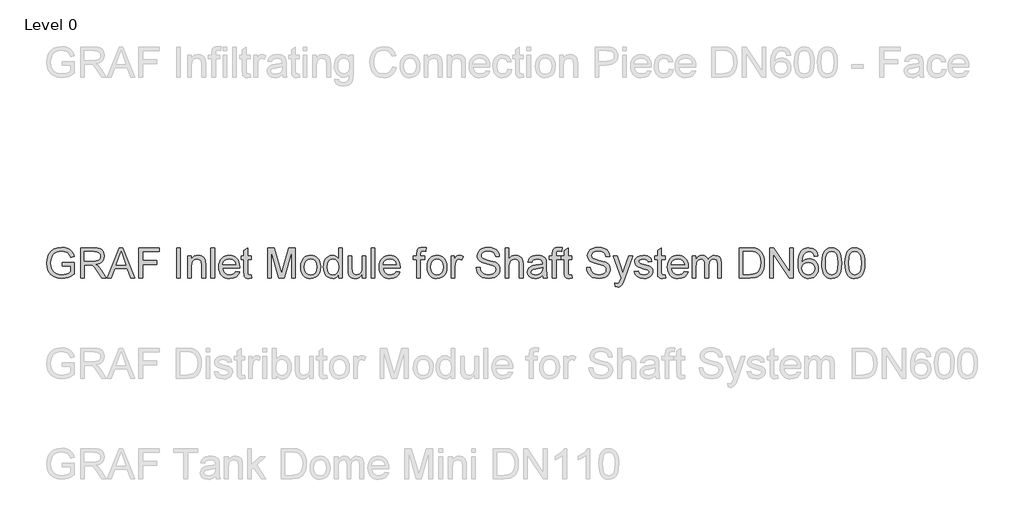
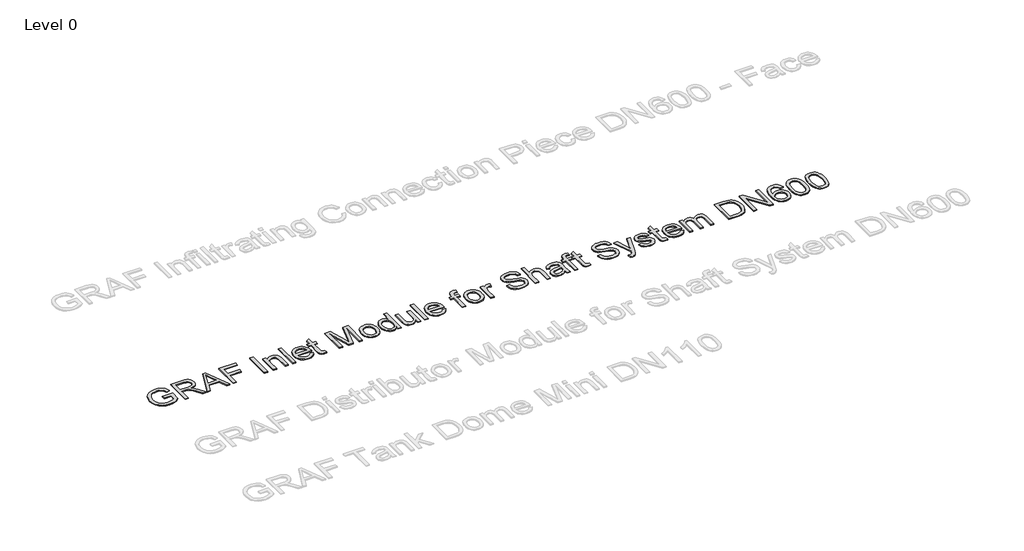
# One storey, part 15 of 25: 1 proxy.
"""IFC4 building model written with IfcOpenShell, lengths in millimetres."""

import ifcopenshell
import ifcopenshell.guid

model = None  # the IFC model being written
_history = None  # IfcOwnerHistory: only IFC2X3 demands one
_inside = {}  # id of a spatial element -> (the spatial element, [elements in it])
_under = {}  # id of a project, library or spatial element -> (it, [spatial elements below it])
_declared = {}  # id of a project -> (the project, [libraries it declares])
_typed = {}  # id of a type object -> (the type object, [elements of that type])
_made_of = {}  # id of a material, layer set ... -> (it, [elements and type objects made of it])


def new_model(schema):
    """Start an empty IFC model of exactly this schema.

    Asked for "IFC4X3", IfcOpenShell would pick the latest addendum, in which some entities
    have other attributes; the version numbers below select the first issue.
    IFC2X3 requires an IfcOwnerHistory on every rooted entity: one is made here for all.
    """
    global model, _history
    if schema == "IFC4X3":
        model = ifcopenshell.file(schema_version=(4, 3, 0, 0))
    else:
        model = ifcopenshell.file(schema=schema)
    _inside.clear()
    _under.clear()
    _declared.clear()
    _typed.clear()
    _made_of.clear()
    _history = None
    if model.schema == "IFC2X3":
        org = make("IfcOrganization", Name="unknown")
        user = make(
            "IfcPersonAndOrganization",
            ThePerson=make("IfcPerson", FamilyName="unknown"),
            TheOrganization=org,
        )
        app = make(
            "IfcApplication",
            ApplicationDeveloper=org,
            Version="unknown",
            ApplicationFullName="unknown",
            ApplicationIdentifier="unknown",
        )
        _history = make(
            "IfcOwnerHistory",
            OwningUser=user,
            OwningApplication=app,
            ChangeAction="ADDED",
            CreationDate=0,
        )
    return model


def make(cls, **values):
    """One entity of the class cls with the attributes given. An attribute that is None is left unset."""
    return model.create_entity(
        cls, **{name: value for name, value in values.items() if value is not None}
    )


def rooted(cls, **values):
    """An entity with a GlobalId (a new one), such as an element, a storey or a relation."""
    return make(cls, GlobalId=ifcopenshell.guid.new(), OwnerHistory=_history, **values)


def si_unit(unit_type, name, prefix=None):
    """IfcSIUnit, for example si_unit("LENGTHUNIT", "METRE", prefix="MILLI")."""
    return make("IfcSIUnit", UnitType=unit_type, Prefix=prefix, Name=name)


def assignment(units):
    """IfcUnitAssignment: the units of a project."""
    return None if units is None else make("IfcUnitAssignment", Units=units)


def point(xyz):
    """IfcCartesianPoint."""
    return None if xyz is None else make("IfcCartesianPoint", Coordinates=xyz)


def direction(xyz):
    """IfcDirection."""
    return None if xyz is None else make("IfcDirection", DirectionRatios=xyz)


def frame(location, z_axis=None, x_axis=None):
    """IfcAxis2Placement3D, a coordinate frame: its origin and axes. An axis left out is left unset."""
    return make(
        "IfcAxis2Placement3D",
        Location=point(location),
        Axis=direction(z_axis),
        RefDirection=direction(x_axis),
    )


def origin():
    """The frame at (0, 0, 0) with its axes left unset."""
    return frame((0.0, 0.0, 0.0))


def origin_with_axes():
    """The frame at (0, 0, 0) with the z axis (0, 0, 1) and the x axis (1, 0, 0) written out."""
    return frame((0.0, 0.0, 0.0), z_axis=(0.0, 0.0, 1.0), x_axis=(1.0, 0.0, 0.0))


def place(relative_to, where):
    """IfcLocalPlacement: puts the frame where relative to a parent placement (None: the world)."""
    return make(
        "IfcLocalPlacement", PlacementRelTo=relative_to, RelativePlacement=where
    )


def context(
    kind, dimensions, precision=None, world=None, true_north=None, identifier=None
):
    """IfcGeometricRepresentationContext, for example the 3D "Model" context."""
    return make(
        "IfcGeometricRepresentationContext",
        ContextIdentifier=identifier,
        ContextType=kind,
        CoordinateSpaceDimension=dimensions,
        Precision=precision,
        WorldCoordinateSystem=world,
        TrueNorth=true_north,
    )


def project(units=None, contexts=None):
    """IfcProject with its units and contexts."""
    return rooted(
        "IfcProject",
        Name="project",
        RepresentationContexts=contexts,
        UnitsInContext=assignment(units),
    )


def spatial(cls, under=None, at=None, **own):
    """A site, building, storey or space (cls), placed at a placement, below another one or the project."""
    s = rooted(cls, ObjectPlacement=at, **own)
    if under is not None:
        _under.setdefault(under.id(), (under, []))[1].append(s)
    return s


def polyline(points):
    """IfcPolyline through the points."""
    return make("IfcPolyline", Points=[point(p) for p in points])


def outline(outer, holes=None, kind="AREA"):
    """IfcArbitraryClosedProfileDef: a profile drawn as a closed curve; with holes, ...WithVoids."""
    if holes is None:
        return make("IfcArbitraryClosedProfileDef", ProfileType=kind, OuterCurve=outer)
    return make(
        "IfcArbitraryProfileDefWithVoids",
        ProfileType=kind,
        OuterCurve=outer,
        InnerCurves=holes,
    )


def extrude(swept, where, along, depth):
    """IfcExtrudedAreaSolid: the profile swept, set in the frame where, extruded along a direction by depth."""
    return make(
        "IfcExtrudedAreaSolid",
        SweptArea=swept,
        Position=where,
        ExtrudedDirection=direction(along),
        Depth=depth,
    )


def shape(context_of_items, identifier, shape_type, items):
    """IfcShapeRepresentation: the items that make up one representation, for example the "Body"."""
    return make(
        "IfcShapeRepresentation",
        ContextOfItems=context_of_items,
        RepresentationIdentifier=identifier,
        RepresentationType=shape_type,
        Items=items,
    )


def made_of(thing, what):
    """Note that an element or type object is made of a material, layer set ...; save() writes the relation."""
    if what is not None:
        _made_of.setdefault(what.id(), (what, []))[1].append(thing)
    return thing


def element(
    cls,
    number,
    at=None,
    inside=None,
    cuts=None,
    type_object=None,
    material=None,
    context=None,
    identifier="Body",
    shape_type=None,
    held_by="IfcProductDefinitionShape",
    body=None,
    shapes=None,
    **own,
):
    """One element of the class cls, such as IfcWall. Its Tag is "e" and its number.

    at: its placement. inside: the storey or other place that contains it. cuts: it is an
    opening in that element (IfcRelVoidsElement). A single representation is given by context,
    identifier, shape_type and body (its items); several are given by shapes. held_by: the class
    of the entity that holds the representations. save() writes the other relations.
    """
    e = rooted(cls, Tag="e%d" % number, ObjectPlacement=at, **own)
    if body is not None:
        shapes = [shape(context, identifier, shape_type, body)]
    if shapes is not None:
        e.Representation = make(held_by, Representations=shapes)
    if inside is not None:
        _inside.setdefault(inside.id(), (inside, []))[1].append(e)
    if cuts is not None:
        rooted(
            "IfcRelVoidsElement", RelatingBuildingElement=cuts, RelatedOpeningElement=e
        )
    if type_object is not None:
        _typed.setdefault(type_object.id(), (type_object, []))[1].append(e)
    return made_of(e, material)


def aggregate(whole, parts):
    """IfcRelAggregates: a whole, such as a stair, and the parts it consists of."""
    return rooted("IfcRelAggregates", RelatingObject=whole, RelatedObjects=parts)


def save(model, path):
    """Write the relations noted so far, then the file.

    IfcRelAggregates (storeys below a building ...), IfcRelContainedInSpatialStructure (elements
    in a storey), IfcRelDefinesByType, IfcRelAssociatesMaterial and IfcRelDeclares: one each for
    every whole, place, type object, material and project.
    """
    for whole, parts in _under.values():
        aggregate(whole, parts)
    for where, things in _inside.values():
        rooted(
            "IfcRelContainedInSpatialStructure",
            RelatedElements=things,
            RelatingStructure=where,
        )
    for kind, things in _typed.values():
        rooted("IfcRelDefinesByType", RelatedObjects=things, RelatingType=kind)
    for what, things in _made_of.values():
        rooted("IfcRelAssociatesMaterial", RelatedObjects=things, RelatingMaterial=what)
    for by, libraries in _declared.values():
        rooted("IfcRelDeclares", RelatingContext=by, RelatedDefinitions=libraries)
    model.write(path)


model = new_model("IFC4")

# Units and contexts
model_context = context("Model", 3, world=origin())
ifc_project = project(units=[si_unit("LENGTHUNIT", "METRE", prefix="MILLI")], contexts=[model_context])

# Site, building, storey
site = spatial("IfcSite", under=ifc_project)
building = spatial("IfcBuilding", under=site)
storey = spatial("IfcBuildingStorey", under=building, Name="Level 0", Elevation=0.0)

# Proxy
placement = place(None, origin())
element("IfcBuildingElementProxy", 1, Name="300mm Arial", ObjectType="300mm Arial", at=placement, inside=storey, context=model_context, shape_type="SweptSolid", body=[
    extrude(outline(polyline([(-15240.9940387, 916.7454403), (-15240.9940387, 954.4165566), (-15118.5629107, 954.4165566), (-15118.5629107, 841.7710897), (-15148.3153671, 821.0777274), (-15179.0059225, 806.2336889), (-15210.5610007, 797.2941564), (-15242.9070251, 794.3143123), (-15285.1674693, 799.050793), (-15323.3628175, 813.260235), (-15355.0926395, 836.4459978), (-15377.9565055, 868.1114405), (-15391.7796715, 906.0952565), (-15396.3873935, 948.2361391), (-15391.7980656, 990.6805243), (-15378.0300819, 1030.1634594), (-15355.6536596, 1063.282036), (-15325.2390156, 1086.6333457), (-15288.1932987, 1100.4841028), (-15245.9236575, 1105.1010218), (-15214.8928112, 1102.4246803), (-15186.9889618, 1094.3956557), (-15163.4904994, 1081.5933623), (-15145.6758138, 1064.5972141), (-15132.4964413, 1042.5886738), (-15122.9039183, 1014.7492038), (-15157.6319786, 1004.9635427), (-15165.3850917, 1024.8199734), (-15174.8120678, 1039.8019677), (-15187.2832674, 1051.0959449), (-15204.169051, 1059.8883246), (-15224.3013932, 1065.5445103), (-15246.5122687, 1067.4299055), (-15272.5123287, 1065.3973575), (-15294.7415982, 1059.2997134), (-15313.1173039, 1049.9003284), (-15327.5566722, 1037.9625577), (-15346.9440533, 1008.9366683), (-15355.7732212, 980.49939), (-15358.7162772, 949.7812434), (-15355.175413, 913.7563991), (-15344.5528204, 884.1143073), (-15327.1703961, 861.0665003), (-15303.3500369, 844.8245102), (-15275.4737787, 835.195199), (-15245.9236575, 831.9854286), (-15219.831627, 834.4042527), (-15194.3833899, 841.6607251), (-15172.2828791, 851.6579183), (-15156.234027, 862.298905), (-15156.234027, 916.7454403), (-15240.9940387, 916.7454403)])), origin_with_axes(), (0.0, 0.0, 1.0), 10.0),
    extrude(outline(polyline([(-15057.3473467, 799.0232018), (-15057.3473467, 1100.3921323), (-14927.4850024, 1100.3921323), (-14892.5821982, 1098.3595842), (-14867.1891434, 1092.2619402), (-14848.6294968, 1081.0047511), (-14834.2269167, 1063.4935682), (-14824.9838815, 1041.7793334), (-14821.9028698, 1017.912989), (-14827.0072325, 988.2249119), (-14842.3203206, 963.6136065), (-14853.9200997, 953.5842236), (-14868.3019865, 945.5689946), (-14905.4120827, 935.5809984), (-14884.0013506, 919.467767), (-14853.467145, 880.6930048), (-14803.2144645, 799.0232018), (-14846.9924219, 799.0232018), (-14886.2086426, 861.4895646), (-14914.5355562, 902.8395009), (-14934.4379722, 922.3740348), (-14952.3538253, 929.5477337), (-14974.2060158, 930.8721089), (-15019.6762304, 930.8721089), (-15019.6762304, 799.0232018), (-15057.3473467, 799.0232018)]), holes=[polyline([(-15019.6762304, 968.5432252), (-14935.3576771, 968.5432252), (-14911.1418448, 969.8767974), (-14892.3522719, 973.8775141), (-14878.2072092, 980.8120897), (-14867.9249074, 990.9472387), (-14861.6617165, 1003.2069062), (-14859.5739861, 1016.5150374), (-14863.5563087, 1034.890743), (-14875.5032765, 1049.6979933), (-14896.058683, 1059.4652603), (-14925.8663217, 1062.721016), (-15019.6762304, 1062.721016), (-15019.6762304, 968.5432252)])]), origin_with_axes(), (0.0, 0.0, 1.0), 10.0),
    extrude(outline(polyline([(-14791.0743586, 799.0232018), (-14670.7769462, 1100.3921323), (-14638.6976362, 1100.3921323), (-14518.4002238, 799.0232018), (-14558.2050557, 799.0232018), (-14592.7123868, 893.2009926), (-14716.835772, 893.2009926), (-14751.2695268, 799.0232018), (-14791.0743586, 799.0232018)]), holes=[polyline([(-14703.003409, 930.8721089), (-14606.4711735, 930.8721089), (-14633.6208647, 1004.9635427), (-14654.7372912, 1062.721016), (-14673.499273, 1011.4382658), (-14703.003409, 930.8721089)])]), origin_with_axes(), (0.0, 0.0, 1.0), 10.0),
    extrude(outline(polyline([(-14478.1539335, 799.0232018), (-14478.1539335, 1100.3921323), (-14275.6716834, 1100.3921323), (-14275.6716834, 1062.721016), (-14440.4828172, 1062.721016), (-14440.4828172, 973.2521147), (-14299.2161311, 973.2521147), (-14299.2161311, 935.5809984), (-14440.4828172, 935.5809984), (-14440.4828172, 799.0232018), (-14478.1539335, 799.0232018)])), origin_with_axes(), (0.0, 0.0, 1.0), 10.0),
    extrude(outline(polyline([(-14101.4427705, 799.0232018), (-14101.4427705, 1100.3921323), (-14063.7716542, 1100.3921323), (-14063.7716542, 799.0232018), (-14101.4427705, 799.0232018)])), origin_with_axes(), (0.0, 0.0, 1.0), 10.0),
    extrude(outline(polyline([(-13993.1383111, 799.0232018), (-13993.1383111, 1020.3410101), (-13955.4671948, 1020.3410101), (-13955.4671948, 989.4389225), (-13942.3797928, 1005.018725), (-13926.6620346, 1016.1471554), (-13908.3139201, 1022.8242136), (-13887.3354493, 1025.0498997), (-13868.7666056, 1023.2564749), (-13851.7612603, 1017.8762008), (-13837.5794094, 1009.5804618), (-13827.4810487, 999.0406426), (-13816.1870714, 971.3391284), (-13814.2005086, 934.9188108), (-13814.2005086, 799.0232018), (-13851.8716249, 799.0232018), (-13851.8716249, 929.8420393), (-13856.2126325, 963.1721481), (-13862.2183061, 973.0957649), (-13871.5533117, 980.7936956), (-13883.5186736, 985.7325114), (-13897.415416, 987.3787834), (-13919.4791386, 983.6815693), (-13938.2871056, 972.5899271), (-13945.8033946, 963.5354315), (-13951.1721725, 951.1608009), (-13955.4671948, 916.4511347), (-13955.4671948, 799.0232018), (-13993.1383111, 799.0232018)])), origin_with_axes(), (0.0, 0.0, 1.0), 10.0),
    extrude(outline(polyline([(-13762.4027237, 799.0232018), (-13762.4027237, 1100.3921323), (-13724.7316074, 1100.3921323), (-13724.7316074, 799.0232018), (-13762.4027237, 799.0232018)])), origin_with_axes(), (0.0, 0.0, 1.0), 10.0),
    extrude(outline(polyline([(-13513.2730366, 864.9476554), (-13476.3376843, 860.2387658), (-13489.6458154, 832.4084929), (-13510.8818036, 811.6047661), (-13539.5674022, 798.6369257), (-13575.2243646, 794.3143123), (-13598.5986668, 796.1790141), (-13619.4253863, 801.7731197), (-13637.7045229, 811.0966291), (-13653.4360767, 824.1495421), (-13666.0866189, 840.5685754), (-13675.1227204, 859.9904455), (-13680.5443813, 882.4151523), (-13682.3516016, 907.842696), (-13680.5259872, 934.1324631), (-13675.049144, 957.3044302), (-13665.921072, 977.3585975), (-13653.1417712, 994.2949649), (-13637.4516041, 1007.7502488), (-13619.5909332, 1017.361166), (-13599.5597586, 1023.1277162), (-13577.3580801, 1025.0498997), (-13555.8714724, 1023.1323148), (-13536.4404052, 1017.3795601), (-13519.0648787, 1007.7916356), (-13503.7448929, 994.3685413), (-13491.2392043, 977.4689621), (-13482.3065696, 957.451583), (-13476.9469888, 934.3164041), (-13475.1604619, 908.0634252), (-13475.3811911, 897.9098821), (-13644.6804853, 897.9098821), (-13638.1597769, 869.7117272), (-13623.0122357, 848.9815768), (-13601.1508482, 836.2344656), (-13574.4886006, 831.9854286), (-13554.4390318, 833.9535973), (-13537.5532483, 839.8581033), (-13523.8312498, 850.0668287), (-13513.2730366, 864.9476554)]), holes=[polyline([(-13644.6804853, 935.5809984), (-13512.8315782, 935.5809984), (-13517.9267438, 955.4834144), (-13527.91474, 969.7204476), (-13549.8772951, 982.9641994), (-13577.5052329, 987.3787834), (-13602.8982877, 983.8563132), (-13623.8951525, 973.2889029), (-13638.4908707, 956.8169866), (-13644.6804853, 935.5809984)])]), origin_with_axes(), (0.0, 0.0, 1.0), 10.0),
    extrude(outline(polyline([(-13357.4382234, 830.4403242), (-13352.7293339, 797.9195558), (-13380.9090947, 794.3143123), (-13398.9904948, 795.8778108), (-13412.4733699, 800.5683062), (-13422.0015136, 807.7971874), (-13428.2187193, 816.9758432), (-13431.6400219, 832.7395867), (-13432.780456, 859.723731), (-13432.780456, 982.6698938), (-13461.0337933, 982.6698938), (-13461.0337933, 1020.3410101), (-13432.780456, 1020.3410101), (-13432.780456, 1074.1253578), (-13395.1093397, 1096.2718539), (-13395.1093397, 1020.3410101), (-13357.4382234, 1020.3410101), (-13357.4382234, 982.6698938), (-13395.1093397, 982.6698938), (-13395.1093397, 860.827377), (-13393.122777, 841.4032077), (-13386.684842, 834.5238144), (-13373.8457604, 831.9854286), (-13357.4382234, 830.4403242)])), origin_with_axes(), (0.0, 0.0, 1.0), 10.0),
    extrude(outline(polyline([(-13197.3359791, 799.0232018), (-13197.3359791, 1100.3921323), (-13132.5151716, 1100.3921323), (-13070.8581492, 887.9770683), (-13058.4237378, 843.6104996), (-13044.9592567, 891.6558882), (-12984.3323039, 1100.3921323), (-12919.5114964, 1100.3921323), (-12919.5114964, 799.0232018), (-12957.1826127, 799.0232018), (-12957.1826127, 1062.721016), (-13032.8927273, 799.0232018), (-13083.9547482, 799.0232018), (-13159.6648628, 1062.721016), (-13159.6648628, 799.0232018), (-13197.3359791, 799.0232018)])), origin_with_axes(), (0.0, 0.0, 1.0), 10.0),
    extrude(outline(polyline([(-12867.7137115, 909.682106), (-12865.6765649, 938.3447119), (-12859.5651253, 963.0433894), (-12849.3793925, 983.7781383), (-12835.1193667, 1000.5489588), (-12820.7627718, 1011.2681204), (-12804.9162549, 1018.9246644), (-12787.5798159, 1023.5185909), (-12768.7534547, 1025.0498997), (-12747.9704213, 1023.1851978), (-12729.1785491, 1017.5910922), (-12712.3778383, 1008.2675829), (-12697.5682887, 995.2146698), (-12685.4810659, 978.8738115), (-12676.8473353, 959.6864662), (-12671.667097, 937.6526339), (-12669.9403508, 912.7723147), (-12672.9937714, 874.7149223), (-12682.1540331, 845.7442152), (-12697.1544214, 824.0483745), (-12717.728222, 807.8155815), (-12742.1647835, 797.6896296), (-12768.7534547, 794.3143123), (-12789.8399909, 796.1721164), (-12808.806607, 801.7455286), (-12825.6533031, 811.034549), (-12840.3800792, 824.0391775), (-12852.3385433, 840.538685), (-12860.8803034, 860.3123422), (-12866.0053594, 883.3601492), (-12867.7137115, 909.682106)]), holes=[polyline([(-12830.0425951, 909.7556824), (-12825.6831935, 875.6622185), (-12812.6049886, 851.3728097), (-12792.9233018, 836.8322739), (-12768.7534547, 831.9854286), (-12744.6939723, 836.859865), (-12725.0490737, 851.4831743), (-12711.9708688, 876.0944798), (-12707.6114672, 910.9329048), (-12711.9984599, 944.0330873), (-12725.1594383, 967.9914022), (-12744.831928, 982.5319381), (-12768.7534547, 987.3787834), (-12792.9233018, 982.5503322), (-12812.6049886, 968.0649786), (-12825.6831935, 943.8307522), (-12830.0425951, 909.7556824)])]), origin_with_axes(), (0.0, 0.0, 1.0), 10.0),
    extrude(outline(polyline([(-12491.0025484, 799.0232018), (-12491.0025484, 834.5606026), (-12502.273533, 816.9528506), (-12515.9265536, 804.3758849), (-12531.96161, 796.8297054), (-12550.3787024, 794.3143123), (-12574.7324905, 797.956344), (-12597.0261394, 808.8824393), (-12615.8984858, 826.3292429), (-12629.9883662, 849.5333998), (-12638.7623518, 877.5568107), (-12641.6870136, 909.4613768), (-12638.992278, 940.9704697), (-12630.9080712, 969.426142), (-12617.4435901, 993.209713), (-12598.608032, 1010.7025018), (-12575.8269394, 1021.4630502), (-12550.5258552, 1025.0498997), (-12532.0949673, 1022.4839227), (-12515.7977949, 1014.785992), (-12501.9838259, 1002.986177), (-12491.0025484, 988.1145473), (-12491.0025484, 1100.3921323), (-12453.3314321, 1100.3921323), (-12453.3314321, 799.0232018), (-12491.0025484, 799.0232018)]), holes=[polyline([(-12604.0158973, 909.6085296), (-12599.7668603, 875.5334598), (-12587.0197491, 851.2992333), (-12568.4968907, 836.8138798), (-12546.9206117, 831.9854286), (-12525.3535297, 836.5931506), (-12507.2997208, 850.4163165), (-12495.0768415, 873.7124439), (-12491.0025484, 906.73905), (-12495.1504179, 942.8466678), (-12507.5940264, 967.8810376), (-12526.1076878, 982.5043469), (-12548.465716, 987.3787834), (-12570.2627243, 982.697485), (-12588.1233951, 968.6535898), (-12600.0427718, 944.529728), (-12604.0158973, 909.6085296)])]), origin_with_axes(), (0.0, 0.0, 1.0), 10.0),
    extrude(outline(polyline([(-12255.5580715, 799.0232018), (-12255.5580715, 837.0622001), (-12269.1880994, 818.3599992), (-12285.0622075, 805.0012842), (-12303.1803958, 796.9860553), (-12323.5426642, 794.3143123), (-12341.8907787, 796.1905105), (-12358.9697003, 801.819105), (-12373.298704, 810.2803909), (-12383.3970648, 820.6546631), (-12394.6174657, 848.3929656), (-12396.8247576, 883.4153315), (-12396.8247576, 1020.3410101), (-12359.1536413, 1020.3410101), (-12359.1536413, 901.1472437), (-12356.8727729, 862.7403634), (-12351.3821342, 849.9288729), (-12341.9735521, 840.1891971), (-12329.2724263, 834.0363707), (-12313.9041559, 831.9854286), (-12297.6529688, 834.082356), (-12282.4502453, 840.3731381), (-12269.9146663, 850.2783608), (-12261.6649126, 863.21861), (-12257.0847818, 880.9413251), (-12255.5580715, 905.1939456), (-12255.5580715, 1020.3410101), (-12217.8869552, 1020.3410101), (-12217.8869552, 799.0232018), (-12255.5580715, 799.0232018)])), origin_with_axes(), (0.0, 0.0, 1.0), 10.0),
    extrude(outline(polyline([(-12166.0891703, 799.0232018), (-12166.0891703, 1100.3921323), (-12128.4180539, 1100.3921323), (-12128.4180539, 799.0232018), (-12166.0891703, 799.0232018)])), origin_with_axes(), (0.0, 0.0, 1.0), 10.0),
    extrude(outline(polyline([(-11916.9594831, 864.9476554), (-11880.0241308, 860.2387658), (-11893.332262, 832.4084929), (-11914.5682501, 811.6047661), (-11943.2538487, 798.6369257), (-11978.9108111, 794.3143123), (-12002.2851134, 796.1790141), (-12023.1118328, 801.7731197), (-12041.3909695, 811.0966291), (-12057.1225233, 824.1495421), (-12069.7730654, 840.5685754), (-12078.8091669, 859.9904455), (-12084.2308278, 882.4151523), (-12086.0380481, 907.842696), (-12084.2124337, 934.1324631), (-12078.7355905, 957.3044302), (-12069.6075185, 977.3585975), (-12056.8282177, 994.2949649), (-12041.1380506, 1007.7502488), (-12023.2773797, 1017.361166), (-12003.2462051, 1023.1277162), (-11981.0445267, 1025.0498997), (-11959.5579189, 1023.1323148), (-11940.1268518, 1017.3795601), (-11922.7513253, 1007.7916356), (-11907.4313394, 994.3685413), (-11894.9256509, 977.4689621), (-11885.9930162, 957.451583), (-11880.6334354, 934.3164041), (-11878.8469084, 908.0634252), (-11879.0676376, 897.9098821), (-12048.3669318, 897.9098821), (-12041.8462234, 869.7117272), (-12026.6986823, 848.9815768), (-12004.8372947, 836.2344656), (-11978.1750471, 831.9854286), (-11958.1254784, 833.9535973), (-11941.2396948, 839.8581033), (-11927.5176964, 850.0668287), (-11916.9594831, 864.9476554)]), holes=[polyline([(-12048.3669318, 935.5809984), (-11916.5180247, 935.5809984), (-11921.6131904, 955.4834144), (-11931.6011865, 969.7204476), (-11953.5637416, 982.9641994), (-11981.1916795, 987.3787834), (-12006.5847342, 983.8563132), (-12027.5815991, 973.2889029), (-12042.1773172, 956.8169866), (-12048.3669318, 935.5809984)])]), origin_with_axes(), (0.0, 0.0, 1.0), 10.0),
    extrude(outline(polyline([(-11714.0357746, 799.0232018), (-11714.0357746, 982.6698938), (-11746.9980013, 982.6698938), (-11746.9980013, 1020.3410101), (-11714.0357746, 1020.3410101), (-11714.0357746, 1042.634659), (-11710.062649, 1074.0517814), (-11702.4842799, 1086.5781634), (-11690.7856325, 1096.4925831), (-11674.4148837, 1102.9489121), (-11652.8202106, 1105.1010218), (-11618.4600322, 1100.9807435), (-11623.9782622, 1065.6640719), (-11645.6832999, 1067.4299055), (-11660.0031065, 1065.866407), (-11669.4116886, 1061.1759116), (-11674.6264158, 1052.217985), (-11676.3646583, 1037.8521931), (-11676.3646583, 1020.3410101), (-11633.9846524, 1020.3410101), (-11633.9846524, 982.6698938), (-11676.3646583, 982.6698938), (-11676.3646583, 799.0232018), (-11714.0357746, 799.0232018)])), origin_with_axes(), (0.0, 0.0, 1.0), 10.0),
    extrude(outline(polyline([(-11610.4402047, 909.682106), (-11608.4030582, 938.3447119), (-11602.2916185, 963.0433894), (-11592.1058858, 983.7781383), (-11577.84586, 1000.5489588), (-11563.4892651, 1011.2681204), (-11547.6427482, 1018.9246644), (-11530.3063091, 1023.5185909), (-11511.479948, 1025.0498997), (-11490.6969146, 1023.1851978), (-11471.9050424, 1017.5910922), (-11455.1043315, 1008.2675829), (-11440.294782, 995.2146698), (-11428.2075592, 978.8738115), (-11419.5738286, 959.6864662), (-11414.3935902, 937.6526339), (-11412.6668441, 912.7723147), (-11415.7202647, 874.7149223), (-11424.8805264, 845.7442152), (-11439.8809147, 824.0483745), (-11460.4547153, 807.8155815), (-11484.8912768, 797.6896296), (-11511.479948, 794.3143123), (-11532.5664841, 796.1721164), (-11551.5331003, 801.7455286), (-11568.3797964, 811.034549), (-11583.1065725, 824.0391775), (-11595.0650366, 840.538685), (-11603.6067967, 860.3123422), (-11608.7318527, 883.3601492), (-11610.4402047, 909.682106)]), holes=[polyline([(-11572.7690884, 909.7556824), (-11568.4096868, 875.6622185), (-11555.3314819, 851.3728097), (-11535.6497951, 836.8322739), (-11511.479948, 831.9854286), (-11487.4204655, 836.859865), (-11467.775567, 851.4831743), (-11454.6973621, 876.0944798), (-11450.3379604, 910.9329048), (-11454.7249532, 944.0330873), (-11467.8859316, 967.9914022), (-11487.5584213, 982.5319381), (-11511.479948, 987.3787834), (-11535.6497951, 982.5503322), (-11555.3314819, 968.0649786), (-11568.4096868, 943.8307522), (-11572.7690884, 909.7556824)])]), origin_with_axes(), (0.0, 0.0, 1.0), 10.0),
    extrude(outline(polyline([(-11370.2868383, 799.0232018), (-11370.2868383, 1020.3410101), (-11337.3246115, 1020.3410101), (-11337.3246115, 987.5995125), (-11325.1477175, 1006.5822235), (-11313.9273166, 1017.7658362), (-11302.6701276, 1023.2288838), (-11290.3828689, 1025.0498997), (-11271.6208872, 1022.1436319), (-11252.5645998, 1013.4248286), (-11265.1461641, 979.6532615), (-11278.3899159, 985.4474029), (-11291.6336677, 987.3787834), (-11302.8816597, 985.5209793), (-11312.9340352, 979.947567), (-11321.0550303, 971.081611), (-11326.5088809, 959.3461753), (-11331.0890117, 938.3033252), (-11332.615722, 915.3474887), (-11332.615722, 799.0232018), (-11370.2868383, 799.0232018)])), origin_with_axes(), (0.0, 0.0, 1.0), 10.0),
    extrude(outline(polyline([(-11120.7156928, 902.6187717), (-11083.0445764, 902.6187717), (-11078.721963, 881.7138773), (-11070.9044706, 864.9108672), (-11058.7091825, 851.5751448), (-11041.2531818, 841.0721139), (-11019.9160261, 834.2570999), (-10996.0772728, 831.9854286), (-10975.089605, 833.7052769), (-10956.7138993, 838.8648219), (-10941.8238756, 847.0318022), (-10931.2932534, 857.7739565), (-10925.0300625, 870.1072003), (-10922.9423321, 883.0474495), (-10924.5058306, 895.6566049), (-10929.1963261, 906.555109), (-10938.7244697, 915.8533264), (-10954.8009129, 923.6616218), (-11009.6521184, 938.0458078), (-11045.6585687, 947.5647544), (-11068.6971786, 956.6238486), (-11087.4499633, 969.2973833), (-11100.7397004, 984.6564566), (-11108.6583604, 1002.3699747), (-11111.2979137, 1022.1068437), (-11108.032961, 1044.1705664), (-11098.2381029, 1064.7443669), (-11082.1708567, 1082.1819735), (-11060.08874, 1094.8371141), (-11033.5828422, 1102.5350449), (-11004.2442531, 1105.1010218), (-10972.4592487, 1102.4154832), (-10944.6473699, 1094.3588675), (-10921.801898, 1081.0967216), (-10904.9161144, 1062.7945924), (-10894.2291424, 1040.592914), (-10889.9801054, 1015.6321206), (-10927.6512217, 1015.6321206), (-10934.5674032, 1038.1097105), (-10948.9883774, 1054.3333065), (-10971.5211496, 1064.1557557), (-11002.7727251, 1067.4299055), (-11034.7600646, 1064.1925439), (-11056.7042256, 1054.4804593), (-11069.3961544, 1040.1882438), (-11073.6267974, 1023.2104897), (-11070.6285591, 1008.7343332), (-11061.6338443, 997.090868), (-11040.370265, 986.6798076), (-11000.1239747, 976.0480179), (-10958.5900975, 965.9496571), (-10933.4637572, 957.1388833), (-10911.9886457, 943.4720672), (-10897.0066515, 926.6046777), (-10888.2050748, 906.7206559), (-10885.2712158, 884.0039427), (-10888.6465331, 860.7813918), (-10898.7724851, 838.9383983), (-10915.2352043, 820.1396283), (-10937.6208238, 806.0497479), (-10964.5405888, 797.2481712), (-10994.6057448, 794.3143123), (-11031.513506, 797.4780974), (-11061.8913617, 806.9694529), (-11086.0888, 822.8251669), (-11104.4553086, 845.0820276), (-11116.2459265, 872.1949307), (-11120.7156928, 902.6187717)])), origin_with_axes(), (0.0, 0.0, 1.0), 10.0),
    extrude(outline(polyline([(-10833.4734309, 799.0232018), (-10833.4734309, 1100.3921323), (-10795.8023146, 1100.3921323), (-10795.8023146, 989.5860753), (-10781.9653531, 1005.1014985), (-10766.4269373, 1016.1839436), (-10749.1870673, 1022.8334106), (-10730.2457431, 1025.0498997), (-10707.4922417, 1022.6310755), (-10687.9393136, 1015.3746032), (-10672.5434521, 1003.8506997), (-10662.2611504, 988.6295821), (-10656.4670089, 967.7154907), (-10654.5356285, 939.1126656), (-10654.5356285, 799.0232018), (-10692.2067448, 799.0232018), (-10692.2067448, 935.2131164), (-10695.204983, 958.7943523), (-10704.1996978, 974.9443719), (-10718.6942484, 984.2701805), (-10738.1919942, 987.3787834), (-10754.1120875, 985.281856), (-10769.0572936, 978.9910739), (-10781.4365227, 969.1134423), (-10789.6586853, 956.2559666), (-10794.2664073, 939.1678479), (-10795.8023146, 916.5982875), (-10795.8023146, 799.0232018), (-10833.4734309, 799.0232018)])), origin_with_axes(), (0.0, 0.0, 1.0), 10.0),
    extrude(outline(polyline([(-10461.4711574, 827.2765391), (-10479.469784, 811.8438894), (-10498.0018395, 801.7455286), (-10517.4903882, 796.1721164), (-10538.3584944, 794.3143123), (-10569.8399961, 798.7840785), (-10593.0625471, 812.1933772), (-10607.3823537, 832.5556457), (-10612.1556226, 857.8843211), (-10610.3530008, 873.5009117), (-10604.9451355, 887.6827627), (-10596.6034113, 899.8228685), (-10585.9992128, 909.314224), (-10559.6220737, 921.675059), (-10527.0277289, 927.3404417), (-10488.510484, 933.3001301), (-10461.6918866, 940.289888), (-10461.4711574, 948.6775975), (-10464.0647255, 965.4898046), (-10471.8454297, 976.4894763), (-10489.246248, 984.6564566), (-10513.4896715, 987.3787834), (-10535.9304732, 985.5669645), (-10551.6022462, 980.131508), (-10562.2892182, 970.0791325), (-10569.7756168, 954.4165566), (-10607.4467331, 959.1254461), (-10600.9076306, 979.7268379), (-10591.1495607, 995.9136456), (-10577.2620154, 1008.2928748), (-10558.3344867, 1017.4715306), (-10535.1855122, 1023.1553074), (-10508.6336292, 1025.0498997), (-10483.1669981, 1023.3760366), (-10462.9794736, 1018.3544473), (-10447.758356, 1010.8036694), (-10437.1909457, 1001.5422402), (-10430.1827937, 990.0919131), (-10425.6394511, 975.9744415), (-10423.8000411, 943.0122147), (-10423.8000411, 896.1440485), (-10421.8870547, 830.6978416), (-10414.382262, 799.0232018), (-10452.0533783, 799.0232018), (-10461.4711574, 827.2765391)]), holes=[polyline([(-10461.4711574, 902.6187717), (-10522.245263, 891.067277), (-10554.6556668, 884.9604359), (-10569.3341584, 875.027622), (-10574.4845063, 860.5330714), (-10571.6794061, 849.3310647), (-10563.2641055, 840.1524089), (-10549.4225454, 834.0271737), (-10530.3386669, 831.9854286), (-10510.1051572, 834.2387058), (-10492.2260922, 840.9985375), (-10477.7315416, 850.9589425), (-10467.6515749, 862.8139398), (-10463.1818087, 875.027622), (-10461.6918866, 891.9501938), (-10461.4711574, 902.6187717)])]), origin_with_axes(), (0.0, 0.0, 1.0), 10.0),
    extrude(outline(polyline([(-10362.5844771, 799.0232018), (-10362.5844771, 982.6698938), (-10395.5467039, 982.6698938), (-10395.5467039, 1020.3410101), (-10362.5844771, 1020.3410101), (-10362.5844771, 1042.634659), (-10358.6113515, 1074.0517814), (-10351.0329824, 1086.5781634), (-10339.334335, 1096.4925831), (-10322.9635862, 1102.9489121), (-10301.3689131, 1105.1010218), (-10267.0087347, 1100.9807435), (-10272.5269647, 1065.6640719), (-10294.2320024, 1067.4299055), (-10308.5518091, 1065.866407), (-10317.9603911, 1061.1759116), (-10323.1751184, 1052.217985), (-10324.9133608, 1037.8521931), (-10324.9133608, 1020.3410101), (-10282.5333549, 1020.3410101), (-10282.5333549, 982.6698938), (-10324.9133608, 982.6698938), (-10324.9133608, 799.0232018), (-10362.5844771, 799.0232018)])), origin_with_axes(), (0.0, 0.0, 1.0), 10.0),
    extrude(outline(polyline([(-10169.520006, 830.4403242), (-10164.8111165, 797.9195558), (-10192.9908773, 794.3143123), (-10211.0722774, 795.8778108), (-10224.5551525, 800.5683062), (-10234.0832962, 807.7971874), (-10240.3005019, 816.9758432), (-10243.7218045, 832.7395867), (-10244.8622386, 859.723731), (-10244.8622386, 982.6698938), (-10273.1155759, 982.6698938), (-10273.1155759, 1020.3410101), (-10244.8622386, 1020.3410101), (-10244.8622386, 1074.1253578), (-10207.1911223, 1096.2718539), (-10207.1911223, 1020.3410101), (-10169.520006, 1020.3410101), (-10169.520006, 982.6698938), (-10207.1911223, 982.6698938), (-10207.1911223, 860.827377), (-10205.2045596, 841.4032077), (-10198.7666246, 834.5238144), (-10185.927543, 831.9854286), (-10169.520006, 830.4403242)])), origin_with_axes(), (0.0, 0.0, 1.0), 10.0),
    extrude(outline(polyline([(-10023.5444303, 902.6187717), (-9985.873314, 902.6187717), (-9981.5507006, 881.7138773), (-9973.7332082, 864.9108672), (-9961.5379201, 851.5751448), (-9944.0819194, 841.0721139), (-9922.7447637, 834.2570999), (-9898.9060104, 831.9854286), (-9877.9183425, 833.7052769), (-9859.5426369, 838.8648219), (-9844.6526131, 847.0318022), (-9834.121991, 857.7739565), (-9827.8588001, 870.1072003), (-9825.7710697, 883.0474495), (-9827.3345682, 895.6566049), (-9832.0250637, 906.555109), (-9841.5532073, 915.8533264), (-9857.6296505, 923.6616218), (-9912.480856, 938.0458078), (-9948.4873063, 947.5647544), (-9971.5259162, 956.6238486), (-9990.2787009, 969.2973833), (-10003.568438, 984.6564566), (-10011.4870979, 1002.3699747), (-10014.1266513, 1022.1068437), (-10010.8616986, 1044.1705664), (-10001.0668404, 1064.7443669), (-9984.9995943, 1082.1819735), (-9962.9174775, 1094.8371141), (-9936.4115798, 1102.5350449), (-9907.0729907, 1105.1010218), (-9875.2879863, 1102.4154832), (-9847.4761074, 1094.3588675), (-9824.6306355, 1081.0967216), (-9807.744852, 1062.7945924), (-9797.05788, 1040.592914), (-9792.808843, 1015.6321206), (-9830.4799593, 1015.6321206), (-9837.3961408, 1038.1097105), (-9851.817115, 1054.3333065), (-9874.3498872, 1064.1557557), (-9905.6014627, 1067.4299055), (-9937.5888022, 1064.1925439), (-9959.5329632, 1054.4804593), (-9972.224892, 1040.1882438), (-9976.455535, 1023.2104897), (-9973.4572967, 1008.7343332), (-9964.4625819, 997.090868), (-9943.1990026, 986.6798076), (-9902.9527123, 976.0480179), (-9861.4188351, 965.9496571), (-9836.2924948, 957.1388833), (-9814.8173833, 943.4720672), (-9799.8353891, 926.6046777), (-9791.0338123, 906.7206559), (-9788.0999534, 884.0039427), (-9791.4752707, 860.7813918), (-9801.6012227, 838.9383983), (-9818.0639419, 820.1396283), (-9840.4495613, 806.0497479), (-9867.3693263, 797.2481712), (-9897.4344824, 794.3143123), (-9934.3422436, 797.4780974), (-9964.7200993, 806.9694529), (-9988.9175375, 822.8251669), (-10007.2840462, 845.0820276), (-10019.0746641, 872.1949307), (-10023.5444303, 902.6187717)])), origin_with_axes(), (0.0, 0.0, 1.0), 10.0),
    extrude(outline(polyline([(-9736.3021685, 714.2631901), (-9741.011058, 750.5363549), (-9721.8811943, 747.2254169), (-9704.0021293, 751.3824834), (-9693.0392459, 762.9707663), (-9682.73855, 790.7090687), (-9679.795494, 799.8325422), (-9759.8466162, 1020.3410101), (-9720.1153607, 1020.3410101), (-9677.6617785, 897.4684237), (-9662.8729223, 848.3193892), (-9648.0840661, 891.7294646), (-9604.4532614, 1020.3410101), (-9565.0163116, 1020.3410101), (-9642.0508013, 793.7257011), (-9662.0635819, 744.5766665), (-9672.3090954, 728.8864994), (-9683.9157724, 718.0155865), (-9697.3986475, 711.6696221), (-9713.2727556, 709.5543006), (-9736.3021685, 714.2631901)])), origin_with_axes(), (0.0, 0.0, 1.0), 10.0),
    extrude(outline(polyline([(-9547.946587, 864.9476554), (-9510.2754707, 869.6565449), (-9504.3341764, 853.5433135), (-9492.8378641, 841.6975133), (-9475.7129572, 834.4134498), (-9452.8858794, 831.9854286), (-9430.3347131, 834.2111147), (-9414.4789991, 840.8881729), (-9405.0980082, 850.5634693), (-9401.9710113, 861.7838702), (-9405.1164023, 871.3855903), (-9414.5525755, 878.706442), (-9453.3273378, 889.4485962), (-9510.0547415, 907.8794842), (-9524.4113363, 917.1409134), (-9534.8131997, 929.4005809), (-9541.131573, 943.8767374), (-9543.2376974, 959.7876337), (-9541.5454403, 974.3833519), (-9536.4686687, 987.8570299), (-9528.4672353, 999.675239), (-9518.0009926, 1009.3045503), (-9494.0518747, 1020.4513747), (-9461.6414709, 1025.0498997), (-9437.1221359, 1023.2012926), (-9415.8033743, 1017.6554716), (-9398.6600733, 1008.9550624), (-9386.6671203, 997.642691), (-9378.7208692, 982.881426), (-9373.7176741, 963.8343357), (-9411.3887904, 959.1254461), (-9416.1436652, 970.9804434), (-9425.5522472, 979.9107789), (-9439.7065069, 985.5117822), (-9458.6984149, 987.3787834), (-9480.3298763, 985.5945557), (-9494.7508505, 980.2418726), (-9502.8626485, 972.5163507), (-9505.5665811, 963.6136065), (-9501.0784208, 952.650723), (-9487.0253286, 944.3365899), (-9454.5781366, 936.3167624), (-9399.2854727, 918.5848503), (-9384.6805575, 910.1051703), (-9373.6073095, 898.4984933), (-9366.6267486, 883.7280312), (-9364.299895, 865.7569957), (-9367.0314188, 847.178955), (-9375.2259902, 829.7045602), (-9388.5709096, 814.7041719), (-9406.7534772, 803.5481504), (-9428.7160323, 796.6227718), (-9453.4009142, 794.3143123), (-9491.3847302, 798.7656844), (-9519.1046386, 812.1198009), (-9537.6091029, 834.2295088), (-9547.946587, 864.9476554)])), origin_with_axes(), (0.0, 0.0, 1.0), 10.0),
    extrude(outline(polyline([(-9241.868767, 830.4403242), (-9237.1598775, 797.9195558), (-9265.3396383, 794.3143123), (-9283.4210383, 795.8778108), (-9296.9039135, 800.5683062), (-9306.4320571, 807.7971874), (-9312.6492629, 816.9758432), (-9316.0705654, 832.7395867), (-9317.2109996, 859.723731), (-9317.2109996, 982.6698938), (-9345.4643368, 982.6698938), (-9345.4643368, 1020.3410101), (-9317.2109996, 1020.3410101), (-9317.2109996, 1074.1253578), (-9279.5398833, 1096.2718539), (-9279.5398833, 1020.3410101), (-9241.868767, 1020.3410101), (-9241.868767, 982.6698938), (-9279.5398833, 982.6698938), (-9279.5398833, 860.827377), (-9277.5533205, 841.4032077), (-9271.1153856, 834.5238144), (-9258.276304, 831.9854286), (-9241.868767, 830.4403242)])), origin_with_axes(), (0.0, 0.0, 1.0), 10.0),
    extrude(outline(polyline([(-9049.2457543, 864.9476554), (-9012.310402, 860.2387658), (-9025.6185332, 832.4084929), (-9046.8545213, 811.6047661), (-9075.5401199, 798.6369257), (-9111.1970823, 794.3143123), (-9134.5713846, 796.1790141), (-9155.398104, 801.7731197), (-9173.6772407, 811.0966291), (-9189.4087945, 824.1495421), (-9202.0593366, 840.5685754), (-9211.0954381, 859.9904455), (-9216.517099, 882.4151523), (-9218.3243193, 907.842696), (-9216.4987049, 934.1324631), (-9211.0218617, 957.3044302), (-9201.8937897, 977.3585975), (-9189.1144889, 994.2949649), (-9173.4243218, 1007.7502488), (-9155.5636509, 1017.361166), (-9135.5324763, 1023.1277162), (-9113.3307979, 1025.0498997), (-9091.8441901, 1023.1323148), (-9072.413123, 1017.3795601), (-9055.0375965, 1007.7916356), (-9039.7176106, 994.3685413), (-9027.2119221, 977.4689621), (-9018.2792874, 957.451583), (-9012.9197066, 934.3164041), (-9011.1331796, 908.0634252), (-9011.3539088, 897.9098821), (-9180.653203, 897.9098821), (-9174.1324946, 869.7117272), (-9158.9849535, 848.9815768), (-9137.1235659, 836.2344656), (-9110.4613183, 831.9854286), (-9090.4117496, 833.9535973), (-9073.525966, 839.8581033), (-9059.8039676, 850.0668287), (-9049.2457543, 864.9476554)]), holes=[polyline([(-9180.653203, 935.5809984), (-9048.8042959, 935.5809984), (-9053.8994616, 955.4834144), (-9063.8874577, 969.7204476), (-9085.8500128, 982.9641994), (-9113.4779507, 987.3787834), (-9138.8710054, 983.8563132), (-9159.8678703, 973.2889029), (-9174.4635884, 956.8169866), (-9180.653203, 935.5809984)])]), origin_with_axes(), (0.0, 0.0, 1.0), 10.0),
    extrude(outline(polyline([(-8973.4620633, 799.0232018), (-8973.4620633, 1020.3410101), (-8935.790947, 1020.3410101), (-8935.790947, 983.9206926), (-8924.4601816, 1000.6501263), (-8909.8920545, 1013.7559224), (-8892.5832067, 1022.2264053), (-8873.0302786, 1025.0498997), (-8852.079399, 1022.171223), (-8835.2855859, 1013.5351932), (-8822.7408099, 999.7120272), (-8814.5370414, 981.2719422), (-8800.8058459, 1000.4247986), (-8785.14327, 1014.1054103), (-8767.5493136, 1022.3137773), (-8748.0239767, 1025.0498997), (-8719.7062601, 1020.49736), (-8698.7645775, 1006.8397409), (-8685.8243283, 983.7091605), (-8681.5109119, 950.7377366), (-8681.5109119, 799.0232018), (-8719.1820282, 799.0232018), (-8719.1820282, 934.5509288), (-8722.6769072, 966.0048394), (-8727.5881318, 974.6776575), (-8735.3320478, 981.4926714), (-8745.2924528, 985.9072554), (-8756.8531445, 987.3787834), (-8777.2613982, 983.6079929), (-8793.8988615, 972.2956216), (-8804.9629125, 952.6691171), (-8808.6509295, 923.9559274), (-8808.6509295, 799.0232018), (-8846.3220458, 799.0232018), (-8846.3220458, 938.7447836), (-8848.5017466, 960.0451511), (-8855.0408491, 975.2386775), (-8866.5463585, 984.3437569), (-8883.6252801, 987.3787834), (-8898.1382248, 985.3554324), (-8911.5107353, 979.2853795), (-8922.5471952, 969.3157774), (-8930.0519879, 955.593779), (-8934.3562072, 936.5558857), (-8935.790947, 910.6385992), (-8935.790947, 799.0232018), (-8973.4620633, 799.0232018)])), origin_with_axes(), (0.0, 0.0, 1.0), 10.0),
    extrude(outline(polyline([(-8502.5731095, 799.0232018), (-8502.5731095, 1100.3921323), (-8398.6096576, 1100.3921323), (-8344.8253099, 1096.0511247), (-8320.8026157, 1087.6818093), (-8300.5323177, 1074.4932398), (-8279.6918027, 1051.5374033), (-8264.8477642, 1022.9897605), (-8255.963414, 989.4021343), (-8253.001964, 951.3263478), (-8255.0069208, 918.9803234), (-8261.0217914, 890.515454), (-8270.1820531, 866.2812276), (-8281.6231832, 846.627132), (-8294.7933586, 831.1117089), (-8309.1407564, 819.2934998), (-8325.6126728, 810.5287112), (-8345.1564037, 804.1735498), (-8393.6064625, 799.0232018), (-8502.5731095, 799.0232018)]), holes=[polyline([(-8464.9019932, 836.6943181), (-8398.2417756, 836.6943181), (-8370.6690201, 838.0554815), (-8349.7549287, 842.1389717), (-8333.9727911, 848.7056653), (-8321.7958971, 857.5164391), (-8308.7084951, 873.8228085), (-8298.8768488, 894.930038), (-8292.7240224, 920.930098), (-8290.6730803, 951.914959), (-8294.6921911, 992.9705897), (-8306.7495234, 1023.2840661), (-8324.5642091, 1044.106187), (-8345.8553795, 1056.6877512), (-8367.5236291, 1061.2126998), (-8399.2718452, 1062.721016), (-8464.9019932, 1062.721016), (-8464.9019932, 836.6943181)])]), origin_with_axes(), (0.0, 0.0, 1.0), 10.0),
    extrude(outline(polyline([(-8201.204179, 799.0232018), (-8201.204179, 1100.3921323), (-8160.8843124, 1100.3921323), (-8003.4308184, 861.6367174), (-8003.4308184, 1100.3921323), (-7965.7597021, 1100.3921323), (-7965.7597021, 799.0232018), (-8006.0795688, 799.0232018), (-8163.5330627, 1037.8521931), (-8163.5330627, 799.0232018), (-8201.204179, 799.0232018)])), origin_with_axes(), (0.0, 0.0, 1.0), 10.0),
    extrude(outline(polyline([(-7720.8974461, 1020.3410101), (-7758.5685624, 1015.6321206), (-7764.6386154, 1034.3021318), (-7772.8423838, 1047.049243), (-7789.9305025, 1058.8030727), (-7810.5870766, 1062.721016), (-7828.0982595, 1060.4401476), (-7844.5793729, 1053.5975425), (-7858.7336327, 1039.1857653), (-7870.2943244, 1019.3477287), (-7878.1026197, 991.2875296), (-7880.9996904, 952.2092646), (-7865.8889375, 969.8400092), (-7847.7799463, 982.2652236), (-7827.6843923, 989.6320606), (-7806.613951, 992.0876729), (-7788.5141568, 990.4092113), (-7771.8123143, 985.3738265), (-7756.5084233, 976.9815185), (-7742.6024838, 965.2322872), (-7731.0463907, 950.8251086), (-7722.7920384, 934.4589583), (-7717.839427, 916.1338365), (-7716.1885566, 895.849743), (-7719.2971595, 868.8747957), (-7728.622968, 843.868017), (-7743.3934301, 822.65962), (-7762.8359936, 807.0798175), (-7786.0677416, 797.5056886), (-7812.2057573, 794.3143123), (-7834.6626539, 796.4296338), (-7854.9444481, 802.7755982), (-7873.0511401, 813.3522055), (-7888.9827297, 828.1594558), (-7901.9712634, 847.8227485), (-7911.2487875, 872.9674829), (-7916.8153019, 903.593659), (-7918.6708067, 939.7012768), (-7916.6106676, 980.1820918), (-7910.43025, 1014.7308097), (-7900.1295542, 1043.3474304), (-7885.70858, 1066.0319539), (-7870.0781937, 1081.0645319), (-7851.9554069, 1091.8020877), (-7831.3402196, 1098.2446211), (-7808.2326318, 1100.3921323), (-7775.1784345, 1095.0762374), (-7748.709325, 1079.1285529), (-7730.1680724, 1053.7998776), (-7720.8974461, 1020.3410101)]), holes=[polyline([(-7880.9996904, 896.4383541), (-7878.8199896, 879.7457086), (-7872.2808871, 863.8072212), (-7862.1273441, 850.1036169), (-7849.1043214, 840.1156207), (-7833.3865632, 834.0179766), (-7815.1488133, 831.9854286), (-7790.2891875, 836.1976774), (-7770.7454565, 848.834424), (-7758.0811188, 868.7000517), (-7753.8596729, 894.5989442), (-7758.0259365, 919.45857), (-7770.5247273, 938.4136898), (-7790.3995521, 950.4158399), (-7816.6939177, 954.4165566), (-7841.5167553, 950.4158399), (-7862.2744969, 938.4136898), (-7876.318392, 919.9184225), (-7880.9996904, 896.4383541)])]), origin_with_axes(), (0.0, 0.0, 1.0), 10.0),
    extrude(outline(polyline([(-7683.2263298, 947.2796459), (-7680.4580178, 995.5181725), (-7672.1530818, 1033.9894321), (-7658.3942951, 1063.282036), (-7639.2644314, 1083.9845953), (-7614.6255348, 1096.290248), (-7584.3396495, 1100.3921323), (-7561.1262956, 1097.9641111), (-7540.3409629, 1090.6800476), (-7522.9585386, 1078.8250503), (-7509.9539101, 1062.6842278), (-7500.1314608, 1042.3955357), (-7492.2955743, 1018.0969299), (-7487.1636205, 987.2408276), (-7485.4529692, 947.2796459), (-7488.1936901, 899.3170308), (-7496.4158527, 860.9377416), (-7510.0918658, 831.6175466), (-7529.1941384, 810.8322139), (-7553.8882174, 798.4437877), (-7584.3396495, 794.3143123), (-7605.088194, 796.107737), (-7623.4822938, 801.4880112), (-7639.5219488, 810.4551348), (-7653.207159, 823.0091079), (-7666.3405462, 845.7028285), (-7675.7215371, 873.9791583), (-7681.3501316, 907.8380975), (-7683.2263298, 947.2796459)]), holes=[polyline([(-7645.5552135, 947.3532223), (-7641.1406296, 888.0966299), (-7635.6223996, 867.8286312), (-7627.8968777, 853.8008309), (-7608.1784028, 837.4392792), (-7584.3396495, 831.9854286), (-7560.5008962, 837.4576733), (-7540.7824213, 853.8744073), (-7533.0568994, 867.9252003), (-7527.5386695, 888.1886004), (-7523.1240855, 947.3532223), (-7527.3915167, 1005.2762424), (-7532.7258056, 1025.4775625), (-7540.1938101, 1039.8387559), (-7559.8754968, 1057.0004509), (-7584.7811079, 1062.721016), (-7608.3623438, 1057.6810326), (-7627.3082666, 1042.5610826), (-7635.2913059, 1026.9260978), (-7640.9934768, 1005.8464595), (-7645.5552135, 947.3532223)])]), origin_with_axes(), (0.0, 0.0, 1.0), 10.0),
    extrude(outline(polyline([(-7452.4907424, 947.2796459), (-7449.7224304, 995.5181725), (-7441.4174944, 1033.9894321), (-7427.6587078, 1063.282036), (-7408.528844, 1083.9845953), (-7383.8899474, 1096.290248), (-7353.6040621, 1100.3921323), (-7330.3907082, 1097.9641111), (-7309.6053755, 1090.6800476), (-7292.2229513, 1078.8250503), (-7279.2183227, 1062.6842278), (-7269.3958734, 1042.3955357), (-7261.559987, 1018.0969299), (-7256.4280331, 987.2408276), (-7254.7173818, 947.2796459), (-7257.4581027, 899.3170308), (-7265.6802653, 860.9377416), (-7279.3562785, 831.6175466), (-7298.4585511, 810.8322139), (-7323.15263, 798.4437877), (-7353.6040621, 794.3143123), (-7374.3526067, 796.107737), (-7392.7467064, 801.4880112), (-7408.7863614, 810.4551348), (-7422.4715716, 823.0091079), (-7435.6049589, 845.7028285), (-7444.9859497, 873.9791583), (-7450.6145443, 907.8380975), (-7452.4907424, 947.2796459)]), holes=[polyline([(-7414.8196261, 947.3532223), (-7410.4050422, 888.0966299), (-7404.8868123, 867.8286312), (-7397.1612904, 853.8008309), (-7377.4428154, 837.4392792), (-7353.6040621, 831.9854286), (-7329.7653089, 837.4576733), (-7310.0468339, 853.8744073), (-7302.321312, 867.9252003), (-7296.8030821, 888.1886004), (-7292.3884981, 947.3532223), (-7296.6559293, 1005.2762424), (-7301.9902182, 1025.4775625), (-7309.4582227, 1039.8387559), (-7329.1399095, 1057.0004509), (-7354.0455205, 1062.721016), (-7377.6267564, 1057.6810326), (-7396.5726792, 1042.5610826), (-7404.5557185, 1026.9260978), (-7410.2578894, 1005.8464595), (-7414.8196261, 947.3532223)])]), origin_with_axes(), (0.0, 0.0, 1.0), 10.0),
])

save(model, "model.ifc")
